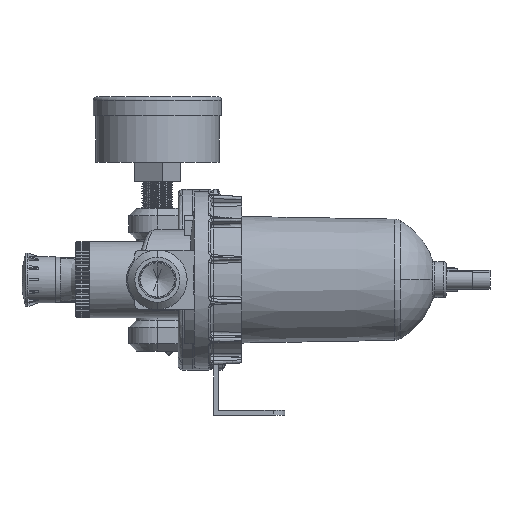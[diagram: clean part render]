
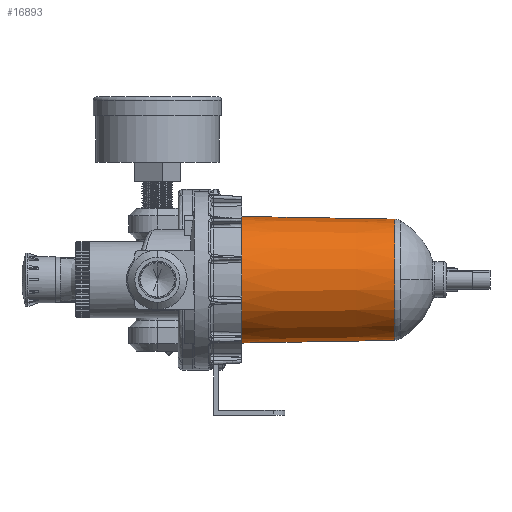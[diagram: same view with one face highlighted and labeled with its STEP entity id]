
A CAD part, left-side view. The second image highlights one B-rep face of the part: STEP entity #16893.
In plain terms, the highlighted conical face has half-angle 1 degrees and reference radius 25.5 mm.
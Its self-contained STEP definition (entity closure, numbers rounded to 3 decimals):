
#1835 = AXIS2_PLACEMENT_3D ( 'NONE', #61448, #13109, #4252 ) ;
#3596 = VERTEX_POINT ( 'NONE', #31602 ) ;
#3950 = VERTEX_POINT ( 'NONE', #7675 ) ;
#4252 = DIRECTION ( 'NONE',  ( 0., 0., 1. ) ) ;
#4476 = CIRCLE ( 'NONE', #58467, 25.52 ) ;
#5351 = DIRECTION ( 'NONE',  ( 0., 1., -0.017 ) ) ;
#7387 = CARTESIAN_POINT ( 'NONE',  ( 0., 0., 25.5 ) ) ;
#7675 = CARTESIAN_POINT ( 'NONE',  ( 0., 65.5, -26.643 ) ) ;
#8554 = VERTEX_POINT ( 'NONE', #58710 ) ;
#8665 = EDGE_CURVE ( 'NONE', #3596, #8554, #46099, .T. ) ;
#9978 = CARTESIAN_POINT ( 'NONE',  ( 0., 1.155, -25.52 ) ) ;
#10808 = EDGE_LOOP ( 'NONE', ( #41848, #30249, #17662, #11597 ) ) ;
#11597 = ORIENTED_EDGE ( 'NONE', *, *, #8665, .F. ) ;
#13109 = DIRECTION ( 'NONE',  ( 0., 1., 0. ) ) ;
#15672 = DIRECTION ( 'NONE',  ( 0., 1., 0. ) ) ;
#16460 = EDGE_CURVE ( 'NONE', #17713, #3950, #50566, .T. ) ;
#16893 = ADVANCED_FACE ( 'NONE', ( #20950 ), #62678, .T. ) ;
#17118 = DIRECTION ( 'NONE',  ( 0., 1., 0.017 ) ) ;
#17662 = ORIENTED_EDGE ( 'NONE', *, *, #49956, .F. ) ;
#17713 = VERTEX_POINT ( 'NONE', #9978 ) ;
#20772 = CARTESIAN_POINT ( 'NONE',  ( 0., 1.155, 0. ) ) ;
#20950 = FACE_OUTER_BOUND ( 'NONE', #10808, .T. ) ;
#25457 = DIRECTION ( 'NONE',  ( 0., 0., -1. ) ) ;
#29453 = DIRECTION ( 'NONE',  ( 0., 0., 1. ) ) ;
#30249 = ORIENTED_EDGE ( 'NONE', *, *, #16460, .T. ) ;
#31602 = CARTESIAN_POINT ( 'NONE',  ( 0., 1.155, 25.52 ) ) ;
#32101 = CIRCLE ( 'NONE', #61079, 26.643 ) ;
#34312 = CARTESIAN_POINT ( 'NONE',  ( 0., 65.5, 0. ) ) ;
#34359 = CARTESIAN_POINT ( 'NONE',  ( 0., 0., -25.5 ) ) ;
#41422 = VECTOR ( 'NONE', #5351, 1000. ) ;
#41848 = ORIENTED_EDGE ( 'NONE', *, *, #55814, .T. ) ;
#44015 = DIRECTION ( 'NONE',  ( 0., 1., 0. ) ) ;
#46099 = LINE ( 'NONE', #7387, #61303 ) ;
#49956 = EDGE_CURVE ( 'NONE', #8554, #3950, #32101, .T. ) ;
#50566 = LINE ( 'NONE', #34359, #41422 ) ;
#55814 = EDGE_CURVE ( 'NONE', #3596, #17713, #4476, .T. ) ;
#58467 = AXIS2_PLACEMENT_3D ( 'NONE', #20772, #15672, #25457 ) ;
#58710 = CARTESIAN_POINT ( 'NONE',  ( 0., 65.5, 26.643 ) ) ;
#61079 = AXIS2_PLACEMENT_3D ( 'NONE', #34312, #44015, #29453 ) ;
#61303 = VECTOR ( 'NONE', #17118, 1000. ) ;
#61448 = CARTESIAN_POINT ( 'NONE',  ( 0., 0., 0. ) ) ;
#62678 = CONICAL_SURFACE ( 'NONE', #1835, 25.5, 0.017 ) ;
